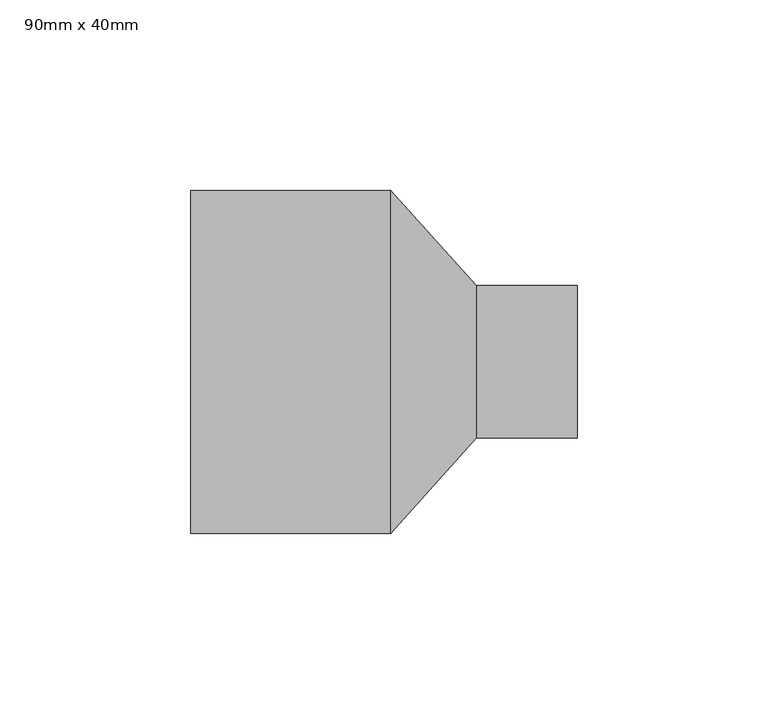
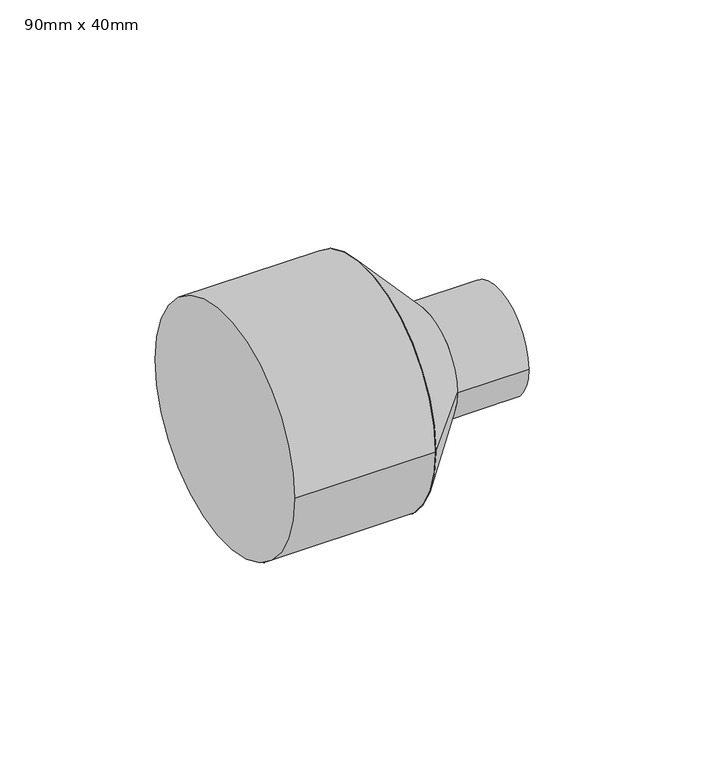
"""IFC4 building model written with IfcOpenShell, lengths in millimetres: pipe fitting geometry, PipeFitting_HTA_CPVC_ReducingBushesLongPattern : 90mm x 40mm."""

from ifc_helpers import new_model, si_unit, point, frame, origin, origin_2d, place, context, project, spatial, polyline, circle_curve, trimmed, segment, composite_curve, outline, extrude, source, transform, mapped, element, save
from ifc_brep_helpers import plane_surface, revolved_surface, advanced_brep


def pipe_fitting_90mm_x_40mm_bbc0c3a7(model_context):
    return source(origin(), model_context, "Body", "SolidModel", [
        advanced_brep(
        [(75.0, -20.0, 0.0), (75.0, 20.0, 0.0), (52.5, -45.0, 0.0), (52.5, 45.0, 0.0)],
        [
            (0, 1, circle_curve(frame((75.0, 0.0, 0.0), z_axis=(1.0, 0.0, 0.0), x_axis=(0.0, -1.0, 0.0)), 20.0)),
            (1, 0, circle_curve(frame((75.0, 0.0, 0.0), z_axis=(1.0, 0.0, 0.0), x_axis=(0.0, 1.0, 0.0)), 20.0)),
            (2, 3, circle_curve(frame((52.5, 0.0, 0.0), z_axis=(-1.0, 0.0, 0.0), x_axis=(0.0, 1.0, 0.0)), 45.0)),
            (3, 2, circle_curve(frame((52.5, 0.0, 0.0), z_axis=(-1.0, 0.0, 0.0), x_axis=(0.0, -1.0, 0.0)), 45.0)),
            (3, 1),
            (0, 2),
        ],
        [
            plane_surface(frame((75.0, 0.0, 0.0), z_axis=(1.0, 0.0, 0.0), x_axis=(0.0, 0.0, -1.0))),
            plane_surface(frame((52.5, 0.0, 0.0), z_axis=(-1.0, 0.0, 0.0), x_axis=(0.0, 0.0, -1.0))),
            revolved_surface(polyline([(75.0, -20.0, 0.0), (52.5, -45.0, 0.0)]), (93.0, 0.0, 0.0), (-1.0, 0.0, 0.0)),
            revolved_surface(polyline([(75.0, 20.0, 0.0), (52.5, 45.0, 0.0)]), (93.0, 0.0, 0.0), (-1.0, 0.0, 0.0)),
        ],
        [
            (0, [[1, 2]]),
            (1, [[3, 4]]),
            (2, [[-4, 5, -1, 6]]),
            (3, [[-3, -6, -2, -5]]),
        ],
    ),
        extrude(outline(composite_curve([segment(trimmed(circle_curve(origin_2d(), 20.0), [point((-20.0, 0.0))], [point((20.0, 0.0))], False, "CARTESIAN"), True, "CONTINUOUS"), segment(trimmed(circle_curve(origin_2d(), 20.0), [point((20.0, 0.0))], [point((-20.0, 0.0))], False, "CARTESIAN"), True, "CONTINUOUS")], self_intersect=False)), frame((75.0, 0.0, 0.0), z_axis=(1.0, 0.0, 0.0), x_axis=(0.0, 1.0, 0.0)), (0.0, 0.0, 1.0), 26.5),
        extrude(outline(composite_curve([segment(trimmed(circle_curve(origin_2d(), 45.0), [point((-45.0, 0.0))], [point((45.0, 0.0))], False, "CARTESIAN"), True, "CONTINUOUS"), segment(trimmed(circle_curve(origin_2d(), 45.0), [point((45.0, 0.0))], [point((-45.0, 0.0))], False, "CARTESIAN"), True, "CONTINUOUS")], self_intersect=False)), frame((0.0, 0.0, 0.0), z_axis=(1.0, 0.0, 0.0), x_axis=(0.0, 1.0, 0.0)), (0.0, 0.0, 1.0), 52.5),
    ])


if __name__ == "__main__":
    model = new_model("IFC4")
    model_context = context("Model", 3, world=origin())
    ifc_project = project(units=[si_unit("LENGTHUNIT", "METRE", prefix="MILLI")], contexts=[model_context])
    site = spatial("IfcSite", under=ifc_project)
    building = spatial("IfcBuilding", under=site)
    placement = place(None, origin())
    pipe_fitting_90mm_x_40mm_shape = pipe_fitting_90mm_x_40mm_bbc0c3a7(model_context)
    element("IfcPipeFitting", 1, ObjectType="PipeFitting_HTA_CPVC_ReducingBushesLongPattern : 90mm x 40mm", at=placement, inside=building, context=model_context, shape_type="MappedRepresentation", body=[
        mapped(pipe_fitting_90mm_x_40mm_shape, transform((0.0, 0.0, 0.0), x_axis=(1.0, 0.0, 0.0), y_axis=(0.0, 1.0, 0.0), z_axis=(0.0, 0.0, 1.0))),
    ])
    save(model, "model.ifc")
